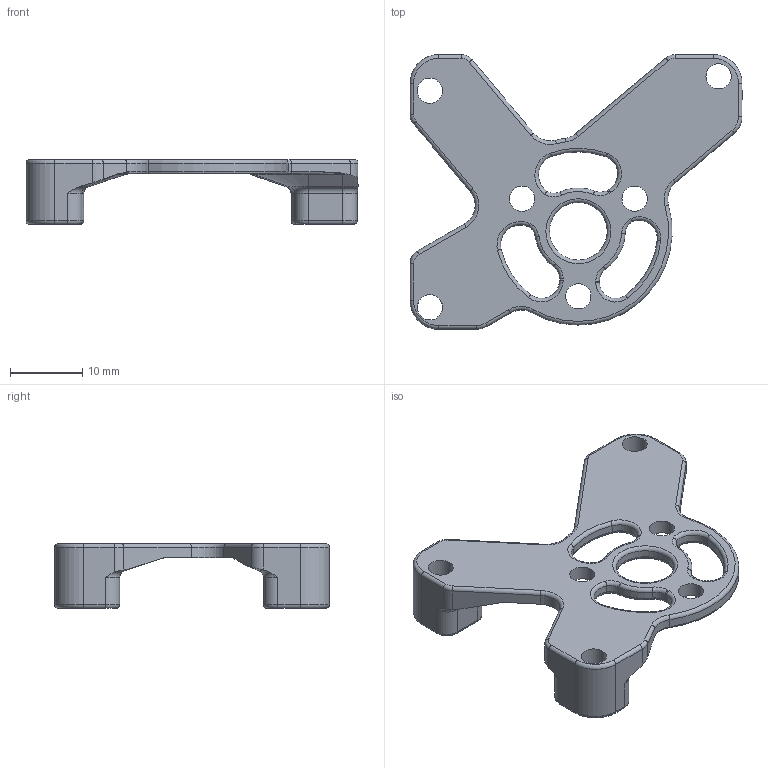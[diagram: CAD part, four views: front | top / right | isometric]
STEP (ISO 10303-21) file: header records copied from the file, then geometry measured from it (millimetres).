
FILE_DESCRIPTION(/* description */ (''),/* implementation_level */ '2;1');
FILE_NAME(/* name */ 'C:/Users/Szasd/Pictures/Saved Pictures/电机支架.step',/* time_stamp */ '2022-03-14T14:46:48+08:00',/* author */ (''),/* organization */ (''),/* preprocessor_version */ 'ST-DEVELOPER v18.1',/* originating_system */ 'Autodesk Translation Framework v10.13.0.1454',/* authorisation */ '');
FILE_SCHEMA (('AUTOMOTIVE_DESIGN { 1 0 10303 214 3 1 1 }'));
Length unit declared in the file: millimetre
Products named in the file (1): 电机支架
Bounding box: 46 x 38.05 x 9 mm (x, y, z)
Volume: 3011.2 mm3; surface area: 3155.7 mm2
Topology: 1 solids, 1 shells, 233 faces, 558 edges, 326 vertices
Faces by surface type: cylinder 92, torus 83, plane 32, bspline 17, cone 9
Full cylindrical faces by diameter (mm): 3.5 x6, 8 x1
Entity records: 7335 total; most frequent: CARTESIAN_POINT 1831, DIRECTION 1241, ORIENTED_EDGE 1114, EDGE_CURVE 557, AXIS2_PLACEMENT_3D 529, VERTEX_POINT 326, CIRCLE 308, EDGE_LOOP 253
